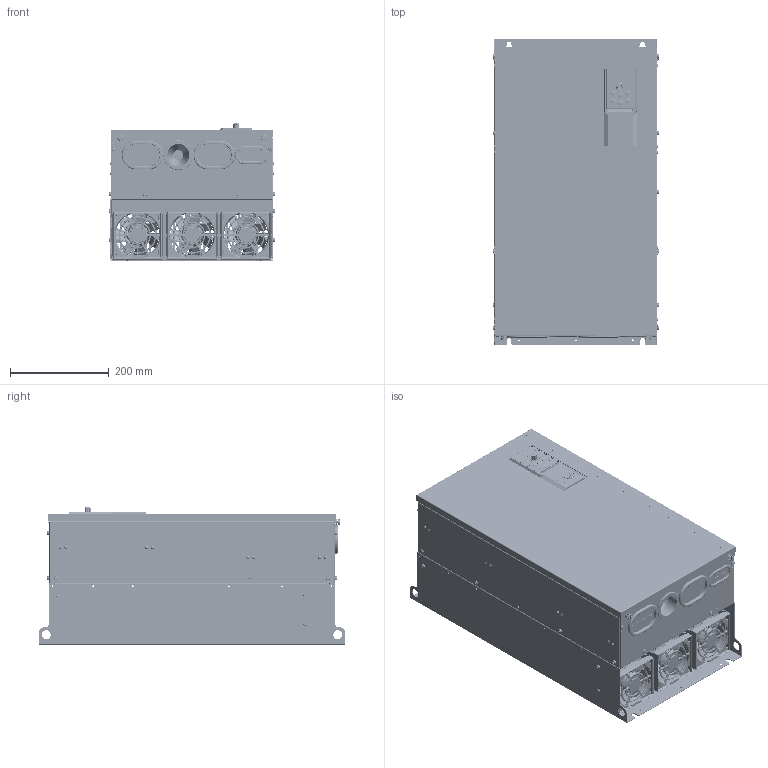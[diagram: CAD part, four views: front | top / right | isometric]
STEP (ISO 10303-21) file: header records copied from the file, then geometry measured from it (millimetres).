
FILE_DESCRIPTION((''),'2;1');
FILE_NAME('AD800P-D6-DRIVE_ASM','2025-06-24T17:41:03',('wendong.luo'),(''),'CREO PARAMETRIC BY PTC INC, 2024374','CREO PARAMETRIC BY PTC INC, 2024374','');
FILE_SCHEMA(('CONFIG_CONTROL_DESIGN','GEOMETRIC_VALIDATION_PROPERTIES_MIM'));
Products named in the file (54): D6-MECHANICAL-PART; E0400071; M0204014; M0204023; M0204033; RIVETING-NUT-4_; M0202008; M0202010; M0202003; M0202001; M3-SPRING; M3-WASHER; M0202001_ASM; P_FHS_5_10; D6-FASTEN_ASM; M0100015; M0202014; M0104021; FAN9238; FAN-ASM-9238_ASM; M0104030; D6-PU_ASM; M0104151; E0100736; E0400142; E0400150; E0400073; E0400023; E0100738_ASM; E0200416; M0104143; E0100735; E0400035; E0400118; E0400011; E0100737_ASM; M0104016; M0104018; E0100102; E0200191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
Assembly tree (124 placements, depth 5):
  AD800P-D6-DRIVE_ASM
    D6-PU_ASM
      D6-MECHANICAL-PART
      E0400071
      M0204014
      M0204023  x2
      M0204033
      D6-FASTEN_ASM
        RIVETING-NUT-4_  x20
        M0202008  x23
        M0202010  x2
        M0202003  x16
        M0202001_ASM
          M0202001
          M3-SPRING
          M3-WASHER
        P_FHS_5_10  x5
      M0100015  x2
      M0202014  x2
      FAN-ASM-9238_ASM  x3
        M0104021
        FAN9238
      M0104030
    CU0P-ASSY_ASM
      M0104151
      E0100738_ASM
        E0100736
        E0400142
        E0400150
        E0400073  x2
        E0400023
      E0200416
      M0104143
      E0100737_ASM
        E0100735
        E0400035
        E0400118
        E0400023
        E0400011
      EXTERNAL_KEYPAD_ASM
        M0104016
        M0104018
        E0100102_ASM
          E0100102
          E0200191
          E0200192
          E0400035
          E0400011
        M0104017
        M0203163
      M0203158
      M0203159
      M0104150
      M0203053
    M0100039_ASM
      M0100039
      M4-MOUNTING-SCREW-RIVET  x2
Bounding box: 335.7 x 620 x 277.6 mm (x, y, z)
Volume: 2723724.6 mm3; surface area: 2877291.2 mm2
Topology: 170 solids, 247 shells, 24535 faces, 64650 edges, 41348 vertices
Faces by surface type: plane 11940, cylinder 6698, bspline 2058, extrusion 1715, cone 1206, torus 733, sphere 185
Entity records: 718873 total; most frequent: CARTESIAN_POINT 175278, ORIENTED_EDGE 86696, DIRECTION 74268, EDGE_CURVE 43514, PRESENTATION_STYLE_ASSIGNMENT 37355, STYLED_ITEM 35098, CURVE_STYLE 31386, VECTOR 28964
